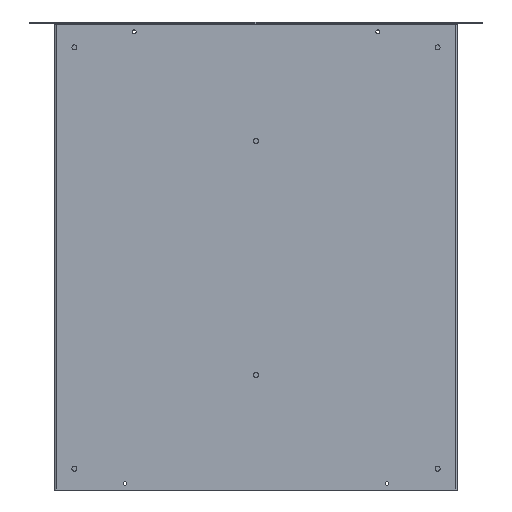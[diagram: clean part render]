
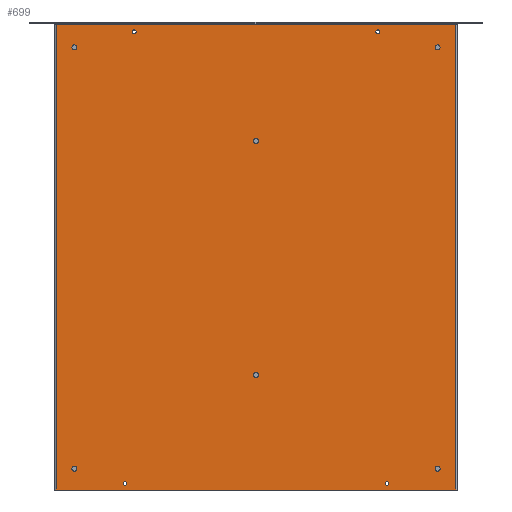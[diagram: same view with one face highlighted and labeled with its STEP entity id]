
A CAD part, front view. The second image highlights one B-rep face of the part: STEP entity #699.
In plain terms, the highlighted planar face has unit normal (0, -1, 0).
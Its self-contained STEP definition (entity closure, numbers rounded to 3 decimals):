
#247=FACE_BOUND('',#1789,.T.);
#248=FACE_BOUND('',#1790,.T.);
#249=FACE_BOUND('',#1791,.T.);
#250=FACE_BOUND('',#1792,.T.);
#251=FACE_BOUND('',#1793,.T.);
#252=FACE_BOUND('',#1794,.T.);
#253=FACE_BOUND('',#1795,.T.);
#254=FACE_BOUND('',#1796,.T.);
#255=FACE_BOUND('',#1797,.T.);
#256=FACE_BOUND('',#1798,.T.);
#257=FACE_BOUND('',#1799,.T.);
#459=PLANE('',#8580);
#699=ADVANCED_FACE('NONE',(#247,#248,#249,#250,#251,#252,#253,#254,#255,
#256,#257),#459,.T.);
#1789=EDGE_LOOP('',(#4307,#4308));
#1790=EDGE_LOOP('',(#4309,#4310));
#1791=EDGE_LOOP('',(#4311,#4312));
#1792=EDGE_LOOP('',(#4313,#4314));
#1793=EDGE_LOOP('',(#4315,#4316));
#1794=EDGE_LOOP('',(#4317,#4318));
#1795=EDGE_LOOP('',(#4319,#4320));
#1796=EDGE_LOOP('',(#4321,#4322));
#1797=EDGE_LOOP('',(#4323,#4324));
#1798=EDGE_LOOP('',(#4325,#4326));
#1799=EDGE_LOOP('',(#4327,#4328,#4329,#4330));
#2293=LINE('',#11722,#2989);
#2353=LINE('',#11882,#3049);
#2485=LINE('',#12405,#3181);
#2486=LINE('',#12406,#3182);
#2989=VECTOR('',#9320,1.);
#3049=VECTOR('',#9472,1.);
#3181=VECTOR('',#9990,1.);
#3182=VECTOR('',#9991,1.);
#4307=ORIENTED_EDGE('',*,*,#7131,.F.);
#4308=ORIENTED_EDGE('',*,*,#7132,.F.);
#4309=ORIENTED_EDGE('',*,*,#7133,.F.);
#4310=ORIENTED_EDGE('',*,*,#7134,.F.);
#4311=ORIENTED_EDGE('',*,*,#7135,.F.);
#4312=ORIENTED_EDGE('',*,*,#7136,.F.);
#4313=ORIENTED_EDGE('',*,*,#7137,.F.);
#4314=ORIENTED_EDGE('',*,*,#7138,.F.);
#4315=ORIENTED_EDGE('',*,*,#7139,.F.);
#4316=ORIENTED_EDGE('',*,*,#7140,.F.);
#4317=ORIENTED_EDGE('',*,*,#7141,.F.);
#4318=ORIENTED_EDGE('',*,*,#7142,.F.);
#4319=ORIENTED_EDGE('',*,*,#7143,.F.);
#4320=ORIENTED_EDGE('',*,*,#7144,.F.);
#4321=ORIENTED_EDGE('',*,*,#7145,.F.);
#4322=ORIENTED_EDGE('',*,*,#7146,.F.);
#4323=ORIENTED_EDGE('',*,*,#7147,.F.);
#4324=ORIENTED_EDGE('',*,*,#7148,.F.);
#4325=ORIENTED_EDGE('',*,*,#7149,.F.);
#4326=ORIENTED_EDGE('',*,*,#7150,.F.);
#4327=ORIENTED_EDGE('',*,*,#6793,.T.);
#4328=ORIENTED_EDGE('',*,*,#7151,.F.);
#4329=ORIENTED_EDGE('',*,*,#6873,.F.);
#4330=ORIENTED_EDGE('',*,*,#7152,.F.);
#6029=VERTEX_POINT('',#11717);
#6031=VERTEX_POINT('',#11723);
#6083=VERTEX_POINT('',#11877);
#6085=VERTEX_POINT('',#11883);
#6263=VERTEX_POINT('',#12366);
#6264=VERTEX_POINT('',#12367);
#6265=VERTEX_POINT('',#12370);
#6266=VERTEX_POINT('',#12371);
#6267=VERTEX_POINT('',#12374);
#6268=VERTEX_POINT('',#12375);
#6269=VERTEX_POINT('',#12378);
#6270=VERTEX_POINT('',#12379);
#6271=VERTEX_POINT('',#12382);
#6272=VERTEX_POINT('',#12383);
#6273=VERTEX_POINT('',#12386);
#6274=VERTEX_POINT('',#12387);
#6275=VERTEX_POINT('',#12390);
#6276=VERTEX_POINT('',#12391);
#6277=VERTEX_POINT('',#12394);
#6278=VERTEX_POINT('',#12395);
#6279=VERTEX_POINT('',#12398);
#6280=VERTEX_POINT('',#12399);
#6281=VERTEX_POINT('',#12402);
#6282=VERTEX_POINT('',#12403);
#6793=EDGE_CURVE('NONE',#6031,#6029,#2293,.T.);
#6873=EDGE_CURVE('NONE',#6083,#6085,#2353,.T.);
#7131=EDGE_CURVE('',#6263,#6264,#8031,.T.);
#7132=EDGE_CURVE('NONE',#6264,#6263,#8032,.T.);
#7133=EDGE_CURVE('',#6265,#6266,#8033,.T.);
#7134=EDGE_CURVE('NONE',#6266,#6265,#8034,.T.);
#7135=EDGE_CURVE('',#6267,#6268,#8035,.T.);
#7136=EDGE_CURVE('NONE',#6268,#6267,#8036,.T.);
#7137=EDGE_CURVE('',#6269,#6270,#8037,.T.);
#7138=EDGE_CURVE('NONE',#6270,#6269,#8038,.T.);
#7139=EDGE_CURVE('',#6271,#6272,#8039,.T.);
#7140=EDGE_CURVE('NONE',#6272,#6271,#8040,.T.);
#7141=EDGE_CURVE('',#6273,#6274,#8041,.T.);
#7142=EDGE_CURVE('NONE',#6274,#6273,#8042,.T.);
#7143=EDGE_CURVE('',#6275,#6276,#8043,.T.);
#7144=EDGE_CURVE('NONE',#6276,#6275,#8044,.T.);
#7145=EDGE_CURVE('',#6277,#6278,#8045,.T.);
#7146=EDGE_CURVE('NONE',#6278,#6277,#8046,.T.);
#7147=EDGE_CURVE('',#6279,#6280,#8047,.T.);
#7148=EDGE_CURVE('NONE',#6280,#6279,#8048,.T.);
#7149=EDGE_CURVE('',#6281,#6282,#8049,.T.);
#7150=EDGE_CURVE('NONE',#6282,#6281,#8050,.T.);
#7151=EDGE_CURVE('NONE',#6085,#6029,#2485,.T.);
#7152=EDGE_CURVE('NONE',#6031,#6083,#2486,.T.);
#8031=CIRCLE('',#8560,2.7);
#8032=CIRCLE('',#8561,2.7);
#8033=CIRCLE('',#8562,2.7);
#8034=CIRCLE('',#8563,2.7);
#8035=CIRCLE('',#8564,2.7);
#8036=CIRCLE('',#8565,2.7);
#8037=CIRCLE('',#8566,2.7);
#8038=CIRCLE('',#8567,2.7);
#8039=CIRCLE('',#8568,2.7);
#8040=CIRCLE('',#8569,2.7);
#8041=CIRCLE('',#8570,2.7);
#8042=CIRCLE('',#8571,2.7);
#8043=CIRCLE('',#8572,2.);
#8044=CIRCLE('',#8573,2.);
#8045=CIRCLE('',#8574,2.);
#8046=CIRCLE('',#8575,2.);
#8047=CIRCLE('',#8576,2.);
#8048=CIRCLE('',#8577,2.);
#8049=CIRCLE('',#8578,2.);
#8050=CIRCLE('',#8579,2.);
#8560=AXIS2_PLACEMENT_3D('',#12365,#9950,#9951);
#8561=AXIS2_PLACEMENT_3D('',#12368,#9952,#9953);
#8562=AXIS2_PLACEMENT_3D('',#12369,#9954,#9955);
#8563=AXIS2_PLACEMENT_3D('',#12372,#9956,#9957);
#8564=AXIS2_PLACEMENT_3D('',#12373,#9958,#9959);
#8565=AXIS2_PLACEMENT_3D('',#12376,#9960,#9961);
#8566=AXIS2_PLACEMENT_3D('',#12377,#9962,#9963);
#8567=AXIS2_PLACEMENT_3D('',#12380,#9964,#9965);
#8568=AXIS2_PLACEMENT_3D('',#12381,#9966,#9967);
#8569=AXIS2_PLACEMENT_3D('',#12384,#9968,#9969);
#8570=AXIS2_PLACEMENT_3D('',#12385,#9970,#9971);
#8571=AXIS2_PLACEMENT_3D('',#12388,#9972,#9973);
#8572=AXIS2_PLACEMENT_3D('',#12389,#9974,#9975);
#8573=AXIS2_PLACEMENT_3D('',#12392,#9976,#9977);
#8574=AXIS2_PLACEMENT_3D('',#12393,#9978,#9979);
#8575=AXIS2_PLACEMENT_3D('',#12396,#9980,#9981);
#8576=AXIS2_PLACEMENT_3D('',#12397,#9982,#9983);
#8577=AXIS2_PLACEMENT_3D('',#12400,#9984,#9985);
#8578=AXIS2_PLACEMENT_3D('',#12401,#9986,#9987);
#8579=AXIS2_PLACEMENT_3D('',#12404,#9988,#9989);
#8580=AXIS2_PLACEMENT_3D('',#12407,#9992,#9993);
#9320=DIRECTION('',(0.,0.,1.));
#9472=DIRECTION('',(0.,0.,1.));
#9950=DIRECTION('',(0.,-1.,0.));
#9951=DIRECTION('',(0.,0.,-1.));
#9952=DIRECTION('',(0.,-1.,0.));
#9953=DIRECTION('',(0.,0.,-1.));
#9954=DIRECTION('',(0.,-1.,0.));
#9955=DIRECTION('',(0.,0.,-1.));
#9956=DIRECTION('',(0.,-1.,0.));
#9957=DIRECTION('',(0.,0.,-1.));
#9958=DIRECTION('',(0.,-1.,0.));
#9959=DIRECTION('',(0.,0.,-1.));
#9960=DIRECTION('',(0.,-1.,0.));
#9961=DIRECTION('',(0.,0.,-1.));
#9962=DIRECTION('',(0.,-1.,0.));
#9963=DIRECTION('',(0.,0.,-1.));
#9964=DIRECTION('',(0.,-1.,0.));
#9965=DIRECTION('',(0.,0.,-1.));
#9966=DIRECTION('',(0.,-1.,0.));
#9967=DIRECTION('',(0.,0.,-1.));
#9968=DIRECTION('',(0.,-1.,0.));
#9969=DIRECTION('',(0.,0.,-1.));
#9970=DIRECTION('',(0.,-1.,0.));
#9971=DIRECTION('',(0.,0.,-1.));
#9972=DIRECTION('',(0.,-1.,0.));
#9973=DIRECTION('',(0.,0.,-1.));
#9974=DIRECTION('',(0.,-1.,0.));
#9975=DIRECTION('',(1.,0.,0.));
#9976=DIRECTION('',(0.,-1.,0.));
#9977=DIRECTION('',(1.,0.,0.));
#9978=DIRECTION('',(0.,-1.,0.));
#9979=DIRECTION('',(-1.,0.,0.));
#9980=DIRECTION('',(0.,-1.,0.));
#9981=DIRECTION('',(-1.,0.,0.));
#9982=DIRECTION('',(0.,-1.,0.));
#9983=DIRECTION('',(1.,0.,0.));
#9984=DIRECTION('',(0.,-1.,0.));
#9985=DIRECTION('',(1.,0.,0.));
#9986=DIRECTION('',(0.,-1.,0.));
#9987=DIRECTION('',(1.,0.,0.));
#9988=DIRECTION('',(0.,-1.,0.));
#9989=DIRECTION('',(1.,0.,0.));
#9990=DIRECTION('',(1.,0.,0.));
#9991=DIRECTION('',(-1.,0.,0.));
#9992=DIRECTION('',(0.,-1.,0.));
#9993=DIRECTION('',(1.,0.,0.));
#11717=CARTESIAN_POINT('',(248.9,-38.25,-0.2));
#11722=CARTESIAN_POINT('',(248.9,-38.25,-428.8));
#11723=CARTESIAN_POINT('',(248.9,-38.25,-427.4));
#11877=CARTESIAN_POINT('',(-248.9,-38.25,-427.4));
#11882=CARTESIAN_POINT('',(-248.9,-38.25,-428.8));
#11883=CARTESIAN_POINT('',(-248.9,-38.25,-0.2));
#12365=CARTESIAN_POINT('',(223.9,-38.25,-19.8));
#12366=CARTESIAN_POINT('',(223.9,-38.25,-22.5));
#12367=CARTESIAN_POINT('',(223.9,-38.25,-17.1));
#12368=CARTESIAN_POINT('',(223.9,-38.25,-19.8));
#12369=CARTESIAN_POINT('',(-226.1,-38.25,-407.8));
#12370=CARTESIAN_POINT('',(-226.1,-38.25,-410.5));
#12371=CARTESIAN_POINT('',(-226.1,-38.25,-405.1));
#12372=CARTESIAN_POINT('',(-226.1,-38.25,-407.8));
#12373=CARTESIAN_POINT('',(223.9,-38.25,-407.8));
#12374=CARTESIAN_POINT('',(223.9,-38.25,-410.5));
#12375=CARTESIAN_POINT('',(223.9,-38.25,-405.1));
#12376=CARTESIAN_POINT('',(223.9,-38.25,-407.8));
#12377=CARTESIAN_POINT('',(-226.1,-38.25,-19.8));
#12378=CARTESIAN_POINT('',(-226.1,-38.25,-22.5));
#12379=CARTESIAN_POINT('',(-226.1,-38.25,-17.1));
#12380=CARTESIAN_POINT('',(-226.1,-38.25,-19.8));
#12381=CARTESIAN_POINT('',(123.9,-38.25,-213.8));
#12382=CARTESIAN_POINT('',(123.9,-38.25,-216.5));
#12383=CARTESIAN_POINT('',(123.9,-38.25,-211.1));
#12384=CARTESIAN_POINT('',(123.9,-38.25,-213.8));
#12385=CARTESIAN_POINT('',(-126.1,-38.25,-213.8));
#12386=CARTESIAN_POINT('',(-126.1,-38.25,-216.5));
#12387=CARTESIAN_POINT('',(-126.1,-38.25,-211.1));
#12388=CARTESIAN_POINT('',(-126.1,-38.25,-213.8));
#12389=CARTESIAN_POINT('',(-241.9,-38.25,-73.8));
#12390=CARTESIAN_POINT('',(-239.9,-38.25,-73.8));
#12391=CARTESIAN_POINT('',(-243.9,-38.25,-73.8));
#12392=CARTESIAN_POINT('',(-241.9,-38.25,-73.8));
#12393=CARTESIAN_POINT('',(-241.9,-38.25,-353.8));
#12394=CARTESIAN_POINT('',(-239.9,-38.25,-353.8));
#12395=CARTESIAN_POINT('',(-243.9,-38.25,-353.8));
#12396=CARTESIAN_POINT('',(-241.9,-38.25,-353.8));
#12397=CARTESIAN_POINT('',(240.6,-38.25,-343.8));
#12398=CARTESIAN_POINT('',(242.6,-38.25,-343.8));
#12399=CARTESIAN_POINT('',(238.6,-38.25,-343.8));
#12400=CARTESIAN_POINT('',(240.6,-38.25,-343.8));
#12401=CARTESIAN_POINT('',(240.6,-38.25,-83.8));
#12402=CARTESIAN_POINT('',(242.6,-38.25,-83.8));
#12403=CARTESIAN_POINT('',(238.6,-38.25,-83.8));
#12404=CARTESIAN_POINT('',(240.6,-38.25,-83.8));
#12405=CARTESIAN_POINT('',(-248.9,-38.25,-0.2));
#12406=CARTESIAN_POINT('',(-248.9,-38.25,-427.4));
#12407=CARTESIAN_POINT('',(-248.9,-38.25,-428.8));
